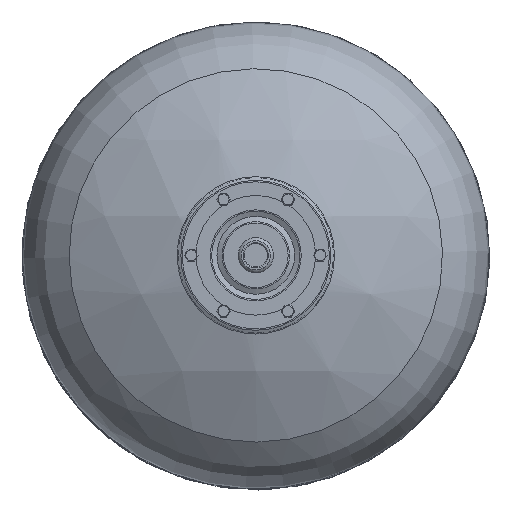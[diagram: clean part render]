
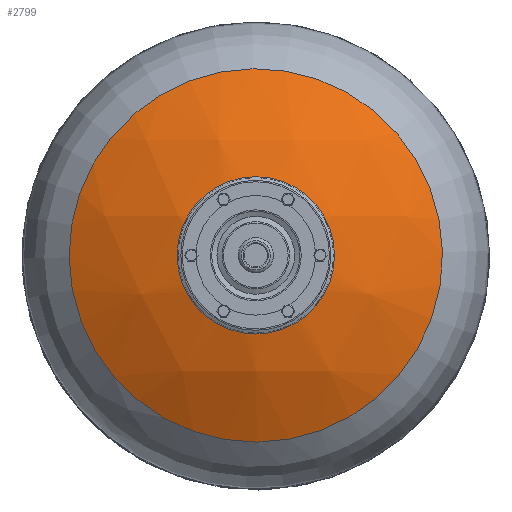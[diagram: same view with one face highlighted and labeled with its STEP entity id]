
A CAD part, top view. The second image highlights one B-rep face of the part: STEP entity #2799.
In plain terms, the highlighted spherical face has radius 624 mm.
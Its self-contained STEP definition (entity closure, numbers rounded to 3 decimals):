
#2799=ADVANCED_FACE('',(#6027,#6029),#6031,.T.);
#6027=FACE_BOUND('',#6028,.T.);
#6028=EDGE_LOOP('',(#8219,#8220));
#6029=FACE_BOUND('',#6030,.T.);
#6030=EDGE_LOOP('',(#8221,#8222));
#6031=SPHERICAL_SURFACE('',#6032,624.);
#6032=AXIS2_PLACEMENT_3D('',#6033,#6034,#6035);
#6033=CARTESIAN_POINT('',(0.,0.,-24.));
#6034=DIRECTION('',(0.,1.,0.));
#6035=DIRECTION('',(-1.,0.,0.));
#8219=ORIENTED_EDGE('',*,*,#9313,.F.);
#8220=ORIENTED_EDGE('',*,*,#9314,.F.);
#8221=ORIENTED_EDGE('',*,*,#9315,.T.);
#8222=ORIENTED_EDGE('',*,*,#9316,.T.);
#9313=EDGE_CURVE('',#10804,#10805,#10806,.T.);
#9314=EDGE_CURVE('',#10805,#10804,#10807,.T.);
#9315=EDGE_CURVE('',#10808,#10809,#10810,.T.);
#9316=EDGE_CURVE('',#10809,#10808,#10811,.T.);
#10804=VERTEX_POINT('',#16917);
#10805=VERTEX_POINT('',#16918);
#10806=CIRCLE('',#16919,312.);
#10807=CIRCLE('',#16923,312.);
#10808=VERTEX_POINT('',#16927);
#10809=VERTEX_POINT('',#16928);
#10810=TRIMMED_CURVE('',#16929,(PARAMETER_VALUE(3.704)),(PARAMETER_VALUE(
3.757)),.T.,.PARAMETER.);
#10811=TRIMMED_CURVE('',#16930,(PARAMETER_VALUE(3.757)),(PARAMETER_VALUE(
9.987)),.T.,.PARAMETER.);
#16917=CARTESIAN_POINT('',(308.281,-48.035,516.399));
#16918=CARTESIAN_POINT('',(307.403,-53.364,516.4));
#16919=AXIS2_PLACEMENT_3D('',#16920,#16921,#16922);
#16920=CARTESIAN_POINT('',(0.,0.,516.4));
#16921=DIRECTION('',(0.,0.,-1.));
#16922=DIRECTION('',(0.988,-0.154,0.));
#16923=AXIS2_PLACEMENT_3D('',#16924,#16925,#16926);
#16924=CARTESIAN_POINT('',(0.,0.,516.4));
#16925=DIRECTION('',(0.,0.,-1.));
#16926=DIRECTION('',(0.985,-0.171,0.));
#16927=CARTESIAN_POINT('',(84.663,-53.364,591.922));
#16928=CARTESIAN_POINT('',(81.696,-57.804,591.922));
#16929=CIRCLE('',#18086,100.078);
#16930=CIRCLE('',#18090,100.078);
#18086=AXIS2_PLACEMENT_3D('',#18087,#18088,#18089);
#18087=CARTESIAN_POINT('',(0.,0.,591.922));
#18088=DIRECTION('',(0.,0.,-1.));
#18089=DIRECTION('',(-1.,0.,0.));
#18090=AXIS2_PLACEMENT_3D('',#18091,#18092,#18093);
#18091=CARTESIAN_POINT('',(0.,0.,591.922));
#18092=DIRECTION('',(0.,0.,-1.));
#18093=DIRECTION('',(-1.,0.,0.));
